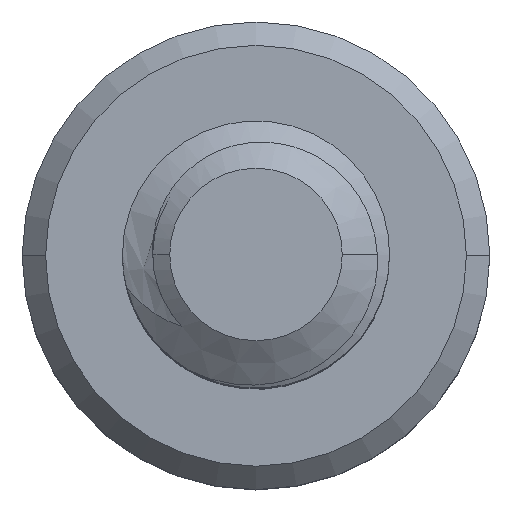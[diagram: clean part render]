
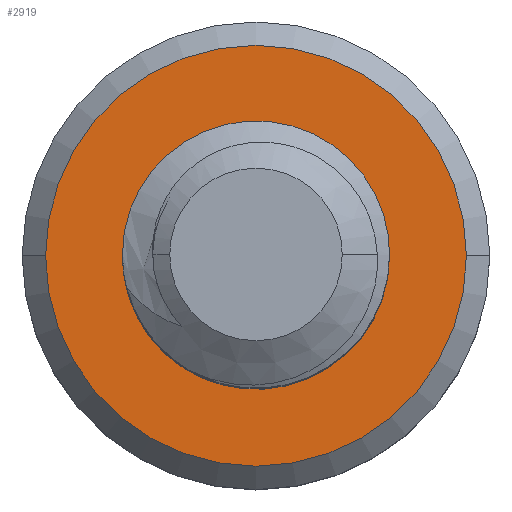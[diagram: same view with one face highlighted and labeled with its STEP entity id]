
A CAD part, top view. The second image highlights one B-rep face of the part: STEP entity #2919.
In plain terms, the highlighted planar face has unit normal (0, 0, 1).
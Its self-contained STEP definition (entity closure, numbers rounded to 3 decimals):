
#38 = FACE_BOUND ( 'NONE', #1006, .T. ) ;
#127 = EDGE_CURVE ( 'NONE', #525, #300, #367, .T. ) ;
#195 = CARTESIAN_POINT ( 'NONE',  ( 0., 0., -11. ) ) ;
#215 = CARTESIAN_POINT ( 'NONE',  ( 0.202, 1.629, -11. ) ) ;
#263 = ORIENTED_EDGE ( 'NONE', *, *, #3314, .T. ) ;
#270 = CARTESIAN_POINT ( 'NONE',  ( 0.82, 1.31, -11. ) ) ;
#300 = VERTEX_POINT ( 'NONE', #2764 ) ;
#333 = CARTESIAN_POINT ( 'NONE',  ( 0., 0., -11. ) ) ;
#367 = B_SPLINE_CURVE_WITH_KNOTS ( 'NONE', 3,
 ( #3687, #2341, #3746, #1679, #947, #3043, #4404, #4041, #3729, #2353, #4387, #4027, #1665, #2659, #215, #4067, #4433, #270 ),
 .UNSPECIFIED., .F., .F.,
 ( 4, 2, 2, 2, 2, 2, 2, 2, 4 ),
 ( 0., 0.001, 0.001, 0.002, 0.002, 0.003, 0.003, 0.004, 0.004 ),
 .UNSPECIFIED. ) ;
#395 = CARTESIAN_POINT ( 'NONE',  ( -0.904, -1.773, -11. ) ) ;
#506 = CARTESIAN_POINT ( 'NONE',  ( 1.385, -1.017, -11. ) ) ;
#508 = CARTESIAN_POINT ( 'NONE',  ( 0., 0., -11. ) ) ;
#525 = VERTEX_POINT ( 'NONE', #1319 ) ;
#614 = AXIS2_PLACEMENT_3D ( 'NONE', #333, #1728, #2057 ) ;
#702 = EDGE_CURVE ( 'NONE', #706, #3909, #2946, .T. ) ;
#706 = VERTEX_POINT ( 'NONE', #1103 ) ;
#826 = CARTESIAN_POINT ( 'NONE',  ( 1.569, 0.165, -11. ) ) ;
#867 = CARTESIAN_POINT ( 'NONE',  ( -1.061, -1.695, -11. ) ) ;
#919 = FACE_OUTER_BOUND ( 'NONE', #2215, .T. ) ;
#927 = PLANE ( 'NONE',  #3491 ) ;
#947 = CARTESIAN_POINT ( 'NONE',  ( -1.869, 0.434, -11. ) ) ;
#1006 = EDGE_LOOP ( 'NONE', ( #3637, #4455, #263, #2243 ) ) ;
#1103 = CARTESIAN_POINT ( 'NONE',  ( 1.509, 0.331, -11. ) ) ;
#1137 = DIRECTION ( 'NONE',  ( 0., 0., -1. ) ) ;
#1232 = EDGE_CURVE ( 'NONE', #525, #3909, #3862, .T. ) ;
#1261 = DIRECTION ( 'NONE',  ( -1., 0., 0. ) ) ;
#1319 = CARTESIAN_POINT ( 'NONE',  ( -1.954, -0.429, -11. ) ) ;
#1335 = AXIS2_PLACEMENT_3D ( 'NONE', #508, #2244, #3646 ) ;
#1377 = DIRECTION ( 'NONE',  ( 0., 0., 1. ) ) ;
#1578 = CARTESIAN_POINT ( 'NONE',  ( 0.78, -1.639, -11. ) ) ;
#1591 = CARTESIAN_POINT ( 'NONE',  ( -0.219, -1.907, -11. ) ) ;
#1647 = CIRCLE ( 'NONE', #1335, 3.15 ) ;
#1665 = CARTESIAN_POINT ( 'NONE',  ( -0.32, 1.667, -11. ) ) ;
#1679 = CARTESIAN_POINT ( 'NONE',  ( -1.919, 0.265, -11. ) ) ;
#1728 = DIRECTION ( 'NONE',  ( 0., 0., 1. ) ) ;
#1912 = CARTESIAN_POINT ( 'NONE',  ( 1.509, 0.331, -11. ) ) ;
#1928 = CARTESIAN_POINT ( 'NONE',  ( 0.127, -1.884, -11. ) ) ;
#2012 = DIRECTION ( 'NONE',  ( 1., 0., 0. ) ) ;
#2057 = DIRECTION ( 'NONE',  ( -1., 0., 0. ) ) ;
#2064 = CARTESIAN_POINT ( 'NONE',  ( 0., 0., -11. ) ) ;
#2117 = AXIS2_PLACEMENT_3D ( 'NONE', #2064, #1377, #2012 ) ;
#2215 = EDGE_LOOP ( 'NONE', ( #3785, #2306 ) ) ;
#2243 = ORIENTED_EDGE ( 'NONE', *, *, #702, .T. ) ;
#2244 = DIRECTION ( 'NONE',  ( 0., 0., 1. ) ) ;
#2306 = ORIENTED_EDGE ( 'NONE', *, *, #3666, .T. ) ;
#2341 = CARTESIAN_POINT ( 'NONE',  ( -1.974, -0.254, -11. ) ) ;
#2353 = CARTESIAN_POINT ( 'NONE',  ( -0.989, 1.476, -11. ) ) ;
#2599 = VERTEX_POINT ( 'NONE', #3807 ) ;
#2602 = CARTESIAN_POINT ( 'NONE',  ( 1.466, -0.863, -11. ) ) ;
#2659 = CARTESIAN_POINT ( 'NONE',  ( 0.031, 1.659, -11. ) ) ;
#2764 = CARTESIAN_POINT ( 'NONE',  ( 0.82, 1.31, -11. ) ) ;
#2919 = ADVANCED_FACE ( 'NONE', ( #919, #38 ), #927, .F. ) ;
#2934 = CARTESIAN_POINT ( 'NONE',  ( 1.599, -0.006, -11. ) ) ;
#2946 = B_SPLINE_CURVE_WITH_KNOTS ( 'NONE', 3,
 ( #1912, #826, #2934, #3629, #4307, #2602, #506, #2952, #3318, #1578, #3984, #3659, #1928, #1591, #3999, #4201, #395, #3597 ),
 .UNSPECIFIED., .F., .F.,
 ( 4, 2, 2, 2, 2, 2, 2, 2, 4 ),
 ( 0., 0.001, 0.001, 0.002, 0.002, 0.003, 0.003, 0.004, 0.004 ),
 .UNSPECIFIED. ) ;
#2952 = CARTESIAN_POINT ( 'NONE',  ( 1.179, -1.302, -11. ) ) ;
#3043 = CARTESIAN_POINT ( 'NONE',  ( -1.728, 0.751, -11. ) ) ;
#3268 = CIRCLE ( 'NONE', #614, 3.15 ) ;
#3281 = VERTEX_POINT ( 'NONE', #3833 ) ;
#3314 = EDGE_CURVE ( 'NONE', #300, #706, #3897, .T. ) ;
#3318 = CARTESIAN_POINT ( 'NONE',  ( 1.058, -1.427, -11. ) ) ;
#3365 = DIRECTION ( 'NONE',  ( 0., 0., -1. ) ) ;
#3438 = EDGE_CURVE ( 'NONE', #2599, #3281, #1647, .T. ) ;
#3491 = AXIS2_PLACEMENT_3D ( 'NONE', #195, #3365, #1261 ) ;
#3525 = CARTESIAN_POINT ( 'NONE',  ( 0., 0., -11. ) ) ;
#3568 = DIRECTION ( 'NONE',  ( 1., 0., 0. ) ) ;
#3597 = CARTESIAN_POINT ( 'NONE',  ( -1.061, -1.695, -11. ) ) ;
#3629 = CARTESIAN_POINT ( 'NONE',  ( 1.603, -0.357, -11. ) ) ;
#3637 = ORIENTED_EDGE ( 'NONE', *, *, #1232, .F. ) ;
#3646 = DIRECTION ( 'NONE',  ( -1., 0., 0. ) ) ;
#3659 = CARTESIAN_POINT ( 'NONE',  ( 0.3, -1.847, -11. ) ) ;
#3666 = EDGE_CURVE ( 'NONE', #3281, #2599, #3268, .T. ) ;
#3687 = CARTESIAN_POINT ( 'NONE',  ( -1.954, -0.429, -11. ) ) ;
#3729 = CARTESIAN_POINT ( 'NONE',  ( -1.281, 1.286, -11. ) ) ;
#3746 = CARTESIAN_POINT ( 'NONE',  ( -1.971, -0.08, -11. ) ) ;
#3785 = ORIENTED_EDGE ( 'NONE', *, *, #3438, .T. ) ;
#3807 = CARTESIAN_POINT ( 'NONE',  ( -3.15, 0., -11. ) ) ;
#3833 = CARTESIAN_POINT ( 'NONE',  ( 3.15, 0., -11. ) ) ;
#3862 = CIRCLE ( 'NONE', #2117, 2. ) ;
#3897 = CIRCLE ( 'NONE', #4329, 1.545 ) ;
#3909 = VERTEX_POINT ( 'NONE', #867 ) ;
#3984 = CARTESIAN_POINT ( 'NONE',  ( 0.626, -1.724, -11. ) ) ;
#3999 = CARTESIAN_POINT ( 'NONE',  ( -0.396, -1.896, -11. ) ) ;
#4027 = CARTESIAN_POINT ( 'NONE',  ( -0.493, 1.645, -11. ) ) ;
#4041 = CARTESIAN_POINT ( 'NONE',  ( -1.414, 1.168, -11. ) ) ;
#4067 = CARTESIAN_POINT ( 'NONE',  ( 0.531, 1.509, -11. ) ) ;
#4201 = CARTESIAN_POINT ( 'NONE',  ( -0.737, -1.829, -11. ) ) ;
#4307 = CARTESIAN_POINT ( 'NONE',  ( 1.576, -0.529, -11. ) ) ;
#4329 = AXIS2_PLACEMENT_3D ( 'NONE', #3525, #1137, #3568 ) ;
#4387 = CARTESIAN_POINT ( 'NONE',  ( -0.829, 1.549, -11. ) ) ;
#4404 = CARTESIAN_POINT ( 'NONE',  ( -1.635, 0.902, -11. ) ) ;
#4433 = CARTESIAN_POINT ( 'NONE',  ( 0.684, 1.422, -11. ) ) ;
#4455 = ORIENTED_EDGE ( 'NONE', *, *, #127, .T. ) ;
